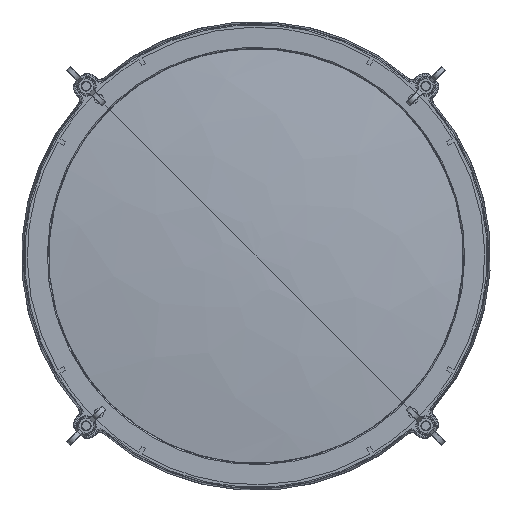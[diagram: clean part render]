
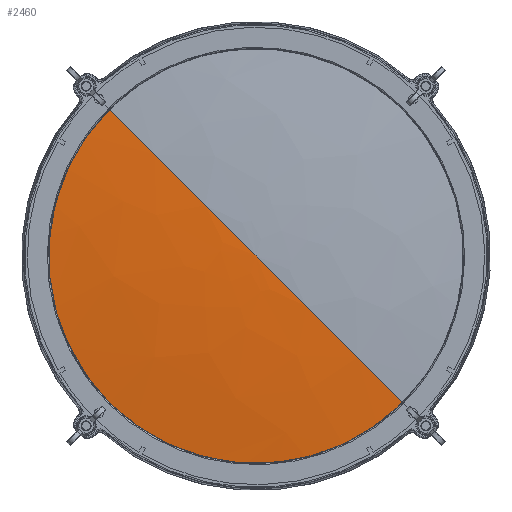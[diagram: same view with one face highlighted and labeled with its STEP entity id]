
A CAD part, front view. The second image highlights one B-rep face of the part: STEP entity #2460.
In plain terms, the highlighted free-form (B-spline) face has degree [3, 3] with [4, 4] control points.
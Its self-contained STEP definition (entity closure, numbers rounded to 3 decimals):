
#455 = CIRCLE ( 'NONE', #21636, 171. ) ;
#506 = VERTEX_POINT ( 'NONE', #7748 ) ;
#780 = ORIENTED_EDGE ( 'NONE', *, *, #27950, .T. ) ;
#1096 = DIRECTION ( 'NONE',  ( -0.707, 0., -0.707 ) ) ;
#1552 = CARTESIAN_POINT ( 'NONE',  ( 120.915, -1478.344, -120.915 ) ) ;
#1581 = CARTESIAN_POINT ( 'NONE',  ( -40.441, -1489.218, 40.441 ) ) ;
#2460 = ADVANCED_FACE ( 'NONE', ( #13908 ), #17300, .T. ) ;
#3459 = CARTESIAN_POINT ( 'NONE',  ( 0., -139.218, 0. ) ) ;
#3803 = CARTESIAN_POINT ( 'NONE',  ( 0., -1489.218, 0. ) ) ;
#5686 = DIRECTION ( 'NONE',  ( -0.707, 0., 0.707 ) ) ;
#5938 = CARTESIAN_POINT ( 'NONE',  ( -362.746, -1478.344, -120.915 ) ) ;
#6037 = CARTESIAN_POINT ( 'NONE',  ( 0., -1489.218, 0. ) ) ;
#7249 = EDGE_CURVE ( 'NONE', #506, #19204, #455, .T. ) ;
#7748 = CARTESIAN_POINT ( 'NONE',  ( -120.915, -1478.344, 120.915 ) ) ;
#8186 = CARTESIAN_POINT ( 'NONE',  ( 80.8, -1485.588, -80.8 ) ) ;
#10455 = CARTESIAN_POINT ( 'NONE',  ( -242.4, -1485.588, -80.8 ) ) ;
#10669 = DIRECTION ( 'NONE',  ( 0., -1., 0. ) ) ;
#10767 = ORIENTED_EDGE ( 'NONE', *, *, #7249, .T. ) ;
#11766 = AXIS2_PLACEMENT_3D ( 'NONE', #3459, #19146, #5686 ) ;
#12749 = CARTESIAN_POINT ( 'NONE',  ( 40.441, -1489.218, -40.441 ) ) ;
#13908 = FACE_OUTER_BOUND ( 'NONE', #15381, .T. ) ;
#14517 = CARTESIAN_POINT ( 'NONE',  ( 0., -139.218, 0. ) ) ;
#14998 = CARTESIAN_POINT ( 'NONE',  ( -121.323, -1489.218, -40.441 ) ) ;
#15381 = EDGE_LOOP ( 'NONE', ( #25106, #10767, #780 ) ) ;
#16445 = EDGE_CURVE ( 'NONE', #506, #26691, #22743, .T. ) ;
#16739 = DIRECTION ( 'NONE',  ( 0.707, 0., -0.707 ) ) ;
#17240 = CARTESIAN_POINT ( 'NONE',  ( 0., -1489.218, 0. ) ) ;
#17300 =( BOUNDED_SURFACE ( )  B_SPLINE_SURFACE ( 3, 3, ( 
 ( #19394, #21521, #5938, #21619 ),
 ( #8186, #23886, #10455, #26147 ),
 ( #12749, #28395, #14998, #1581 ),
 ( #17240, #3803, #19490, #6037 ) ),
 .UNSPECIFIED., .F., .F., .F. ) 
 B_SPLINE_SURFACE_WITH_KNOTS ( ( 4, 4 ),
 ( 4, 4 ),
 ( 0., 1. ),
 ( 0., 1. ),
 .UNSPECIFIED. ) 
 GEOMETRIC_REPRESENTATION_ITEM ( )  RATIONAL_B_SPLINE_SURFACE ( (
 ( 1., 0.333, 0.333, 1.),
 ( 0.999, 0.333, 0.333, 0.999),
 ( 0.999, 0.333, 0.333, 0.999),
 ( 1., 0.333, 0.333, 1.) ) ) 
 REPRESENTATION_ITEM ( '' )  SURFACE ( )  );
#19146 = DIRECTION ( 'NONE',  ( 0.707, 0., 0.707 ) ) ;
#19204 = VERTEX_POINT ( 'NONE', #1552 ) ;
#19394 = CARTESIAN_POINT ( 'NONE',  ( 120.915, -1478.344, -120.915 ) ) ;
#19490 = CARTESIAN_POINT ( 'NONE',  ( 0., -1489.218, 0. ) ) ;
#19657 = AXIS2_PLACEMENT_3D ( 'NONE', #14517, #1096, #16739 ) ;
#20627 = CIRCLE ( 'NONE', #19657, 1350. ) ;
#21521 = CARTESIAN_POINT ( 'NONE',  ( -120.915, -1478.344, -362.746 ) ) ;
#21619 = CARTESIAN_POINT ( 'NONE',  ( -120.915, -1478.344, 120.915 ) ) ;
#21636 = AXIS2_PLACEMENT_3D ( 'NONE', #24091, #10669, #26344 ) ;
#22743 = CIRCLE ( 'NONE', #11766, 1350. ) ;
#23886 = CARTESIAN_POINT ( 'NONE',  ( -80.8, -1485.588, -242.4 ) ) ;
#24091 = CARTESIAN_POINT ( 'NONE',  ( 0., -1478.344, 0. ) ) ;
#25106 = ORIENTED_EDGE ( 'NONE', *, *, #16445, .F. ) ;
#26147 = CARTESIAN_POINT ( 'NONE',  ( -80.8, -1485.588, 80.8 ) ) ;
#26344 = DIRECTION ( 'NONE',  ( 0.707, 0., -0.707 ) ) ;
#26607 = CARTESIAN_POINT ( 'NONE',  ( 0., -1489.218, 0. ) ) ;
#26691 = VERTEX_POINT ( 'NONE', #26607 ) ;
#27950 = EDGE_CURVE ( 'NONE', #19204, #26691, #20627, .T. ) ;
#28395 = CARTESIAN_POINT ( 'NONE',  ( -40.441, -1489.218, -121.323 ) ) ;
